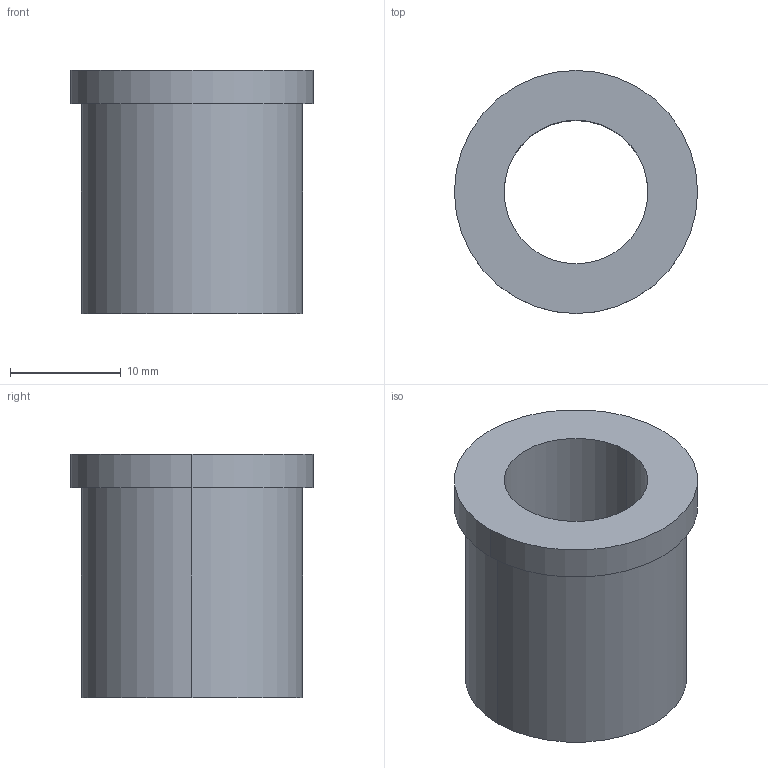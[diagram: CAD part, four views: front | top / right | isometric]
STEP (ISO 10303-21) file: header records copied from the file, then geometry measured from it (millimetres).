
FILE_DESCRIPTION(/* description */ (''),/* implementation_level */ '2;1');
FILE_NAME(/* name */ '3d_tgfz13-22_00389_r00.stp',/* time_stamp */ '2011-01-10T14:09:02+09:00',/* author */ ('MISUMI'),/* organization */ (''),/* preprocessor_version */ 'ST-DEVELOPER v11',/* originating_system */ 'UGS - NX 5.0',/* authorisation */ '');
FILE_SCHEMA (('CONFIG_CONTROL_DESIGN'));
Length unit declared in the file: millimetre
Products named in the file (1): 3d_tgfz13-22_00389_r00
Bounding box: 22 x 22 x 22 mm (x, y, z)
Volume: 4189.3 mm3; surface area: 2794.4 mm2
Topology: 1 solids, 1 shells, 9 faces, 18 edges, 12 vertices
Faces by surface type: cylinder 6, plane 3
Entity records: 334 total; most frequent: DIRECTION 50, CARTESIAN_POINT 40, ORIENTED_EDGE 36, AXIS2_PLACEMENT_3D 22, EDGE_CURVE 18, EDGE_LOOP 12, CIRCLE 12, VERTEX_POINT 12
